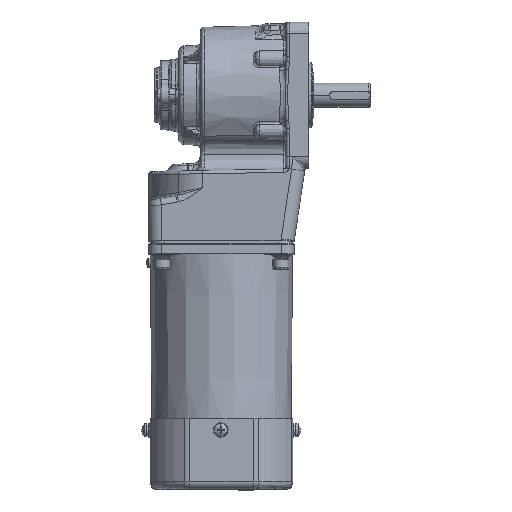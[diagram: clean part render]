
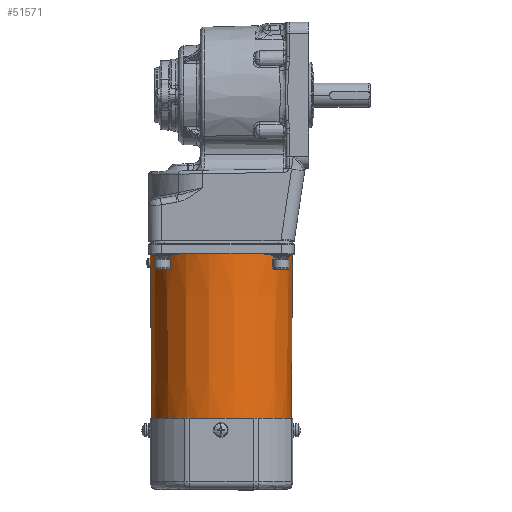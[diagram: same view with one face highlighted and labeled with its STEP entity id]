
A CAD part, top view. The second image highlights one B-rep face of the part: STEP entity #51571.
In plain terms, the highlighted conical face has half-angle 0.503 degrees and reference radius 44 mm.
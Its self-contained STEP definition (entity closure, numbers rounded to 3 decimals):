
#498 = VECTOR ( 'NONE', #17776, 1000. ) ;
#3481 = LINE ( 'NONE', #4773, #38008 ) ;
#3904 = CARTESIAN_POINT ( 'NONE',  ( 76.356, -0.714, 232.806 ) ) ;
#3910 = DIRECTION ( 'NONE',  ( 1., 0., 0. ) ) ;
#4773 = CARTESIAN_POINT ( 'NONE',  ( 76.356, -0.714, 144.806 ) ) ;
#7885 = ORIENTED_EDGE ( 'NONE', *, *, #43214, .T. ) ;
#8227 = DIRECTION ( 'NONE',  ( 0., 0., -1. ) ) ;
#11720 = DIRECTION ( 'NONE',  ( 1., 0., -0.009 ) ) ;
#11740 = CARTESIAN_POINT ( 'NONE',  ( 76.356, -0.714, 188.806 ) ) ;
#13222 = DIRECTION ( 'NONE',  ( -1., 0., -0.009 ) ) ;
#13294 = VERTEX_POINT ( 'NONE', #17936 ) ;
#15042 = ORIENTED_EDGE ( 'NONE', *, *, #19083, .T. ) ;
#15444 = VECTOR ( 'NONE', #13222, 1000. ) ;
#17776 = DIRECTION ( 'NONE',  ( 1., 0., 0.009 ) ) ;
#17936 = CARTESIAN_POINT ( 'NONE',  ( 66.356, -0.714, 232.718 ) ) ;
#18685 = DIRECTION ( 'NONE',  ( 0., 0., -1. ) ) ;
#18858 = LINE ( 'NONE', #3904, #498 ) ;
#19083 = EDGE_CURVE ( 'NONE', #55654, #70831, #3481, .T. ) ;
#23499 = VERTEX_POINT ( 'NONE', #59360 ) ;
#24409 = CIRCLE ( 'NONE', #66328, 44. ) ;
#26546 = CARTESIAN_POINT ( 'NONE',  ( 76.356, -0.714, 144.806 ) ) ;
#38008 = VECTOR ( 'NONE', #11720, 1000. ) ;
#40307 = VERTEX_POINT ( 'NONE', #60521 ) ;
#43214 = EDGE_CURVE ( 'NONE', #70831, #40307, #24409, .T. ) ;
#45237 = CARTESIAN_POINT ( 'NONE',  ( -25.644, -0.714, 188.806 ) ) ;
#45793 = ORIENTED_EDGE ( 'NONE', *, *, #68067, .T. ) ;
#51571 = ADVANCED_FACE ( 'NONE', ( #65481 ), #81707, .T. ) ;
#52134 = DIRECTION ( 'NONE',  ( 0., 0., -1. ) ) ;
#52666 = AXIS2_PLACEMENT_3D ( 'NONE', #45237, #3910, #52134 ) ;
#54103 = CIRCLE ( 'NONE', #52666, 43.105 ) ;
#55654 = VERTEX_POINT ( 'NONE', #65599 ) ;
#56445 = DIRECTION ( 'NONE',  ( 1., 0., 0. ) ) ;
#59360 = CARTESIAN_POINT ( 'NONE',  ( -25.644, -0.714, 231.911 ) ) ;
#59976 = DIRECTION ( 'NONE',  ( -1., 0., 0. ) ) ;
#60521 = CARTESIAN_POINT ( 'NONE',  ( 76.356, -0.714, 232.806 ) ) ;
#61507 = CARTESIAN_POINT ( 'NONE',  ( -10.644, -0.714, 232.042 ) ) ;
#63975 = AXIS2_PLACEMENT_3D ( 'NONE', #84041, #56445, #8227 ) ;
#65070 = ORIENTED_EDGE ( 'NONE', *, *, #78248, .F. ) ;
#65481 = FACE_OUTER_BOUND ( 'NONE', #77438, .T. ) ;
#65599 = CARTESIAN_POINT ( 'NONE',  ( -25.644, -0.714, 145.701 ) ) ;
#66328 = AXIS2_PLACEMENT_3D ( 'NONE', #11740, #59976, #18685 ) ;
#68067 = EDGE_CURVE ( 'NONE', #40307, #13294, #70561, .T. ) ;
#70561 = LINE ( 'NONE', #61507, #15444 ) ;
#70831 = VERTEX_POINT ( 'NONE', #26546 ) ;
#71545 = EDGE_CURVE ( 'NONE', #23499, #55654, #54103, .T. ) ;
#75541 = ORIENTED_EDGE ( 'NONE', *, *, #71545, .T. ) ;
#77438 = EDGE_LOOP ( 'NONE', ( #65070, #75541, #15042, #7885, #45793 ) ) ;
#78248 = EDGE_CURVE ( 'NONE', #23499, #13294, #18858, .T. ) ;
#81707 = CONICAL_SURFACE ( 'NONE', #63975, 44., 0.009 ) ;
#84041 = CARTESIAN_POINT ( 'NONE',  ( 76.356, -0.714, 188.806 ) ) ;
